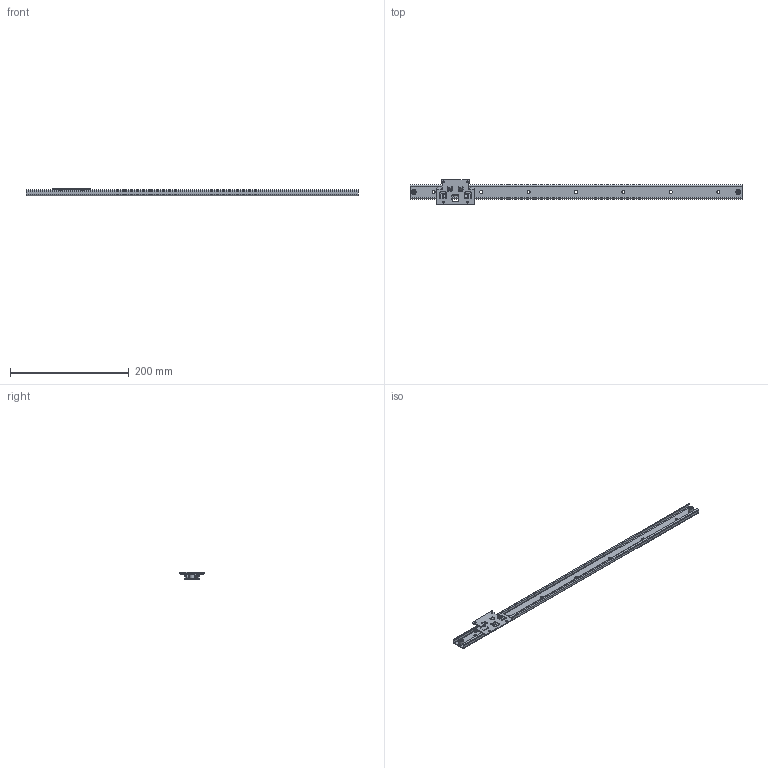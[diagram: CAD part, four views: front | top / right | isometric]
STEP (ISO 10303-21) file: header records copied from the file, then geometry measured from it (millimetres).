
FILE_DESCRIPTION((''),'1');
FILE_NAME('C:/Users/t-inoue/Desktop/25SW0560SS hp.stp','2016-07-29T02:38:13',(''),(''),'Spatial Interop R21 SP3','Kubotek KeyCreator 2011 V10.0.2 (22737)',' ');
FILE_SCHEMA(('automotive_design'));
Length unit declared in the file: millimetre
Products named in the file (434): Unnamed[1]
Bounding box: 560 x 42 x 12 mm (x, y, z)
Surface area: 54218 mm2 (no closed solid volume)
Topology: 0 solids, 434 shells, 434 faces, 1862 edges, 1705 vertices
Faces by surface type: plane 188, cylinder 132, cone 105, torus 8, sphere 1
Full cylindrical faces by diameter (mm): 1.6 x1, 3.2 x6, 3.3 x4, 3.5 x1, 4 x10, 5 x6, 5.5 x4, 5.6 x2, 7 x6, 8.2 x2
Entity records: 37178 total; most frequent: CARTESIAN_POINT 4488, DIRECTION 4241, PRESENTATION_STYLE_ASSIGNMENT 1736, COLOUR_RGB 1736, AXIS2_PLACEMENT_3D 1703, ORIENTED_EDGE 1678, EDGE_CURVE 1678, VERTEX_POINT 1678
